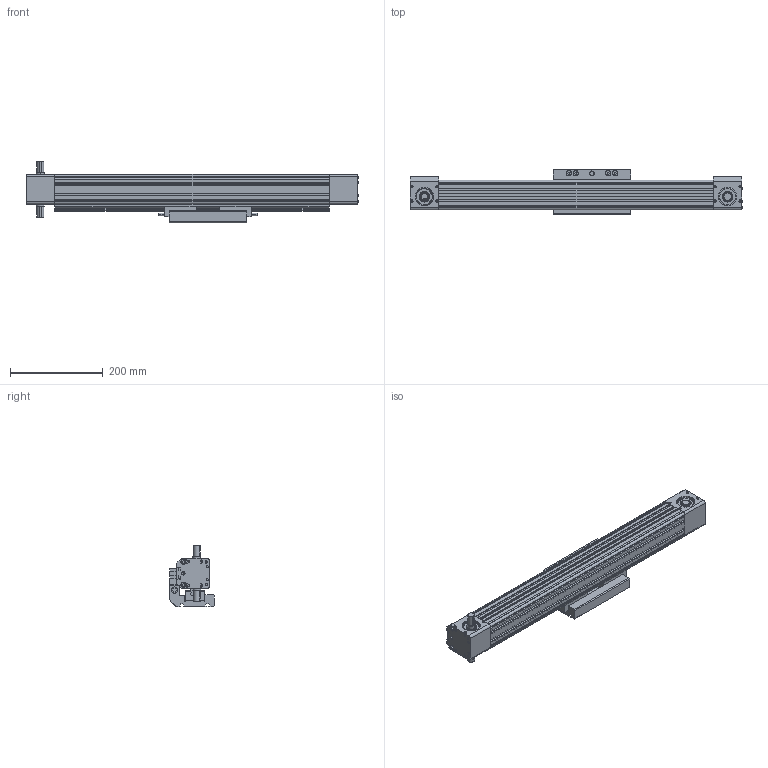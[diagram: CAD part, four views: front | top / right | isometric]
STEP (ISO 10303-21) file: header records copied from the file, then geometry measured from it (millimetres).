
FILE_DESCRIPTION((''),'2;1');
FILE_NAME('TCDH65-S350','2018-02-03T',('lenovo'),(''),'PRO/ENGINEER BY PARAMETRIC TECHNOLOGY CORPORATION, 2010280','PRO/ENGINEER BY PARAMETRIC TECHNOLOGY CORPORATION, 2010280','');
FILE_SCHEMA(('CONFIG_CONTROL_DESIGN'));
Products named in the file (1): TCDH65-S350
Bounding box: 716 x 96.5 x 132.5 mm (x, y, z)
Surface area: 652325.3 mm2 (no closed solid volume)
Topology: 0 solids, 42 shells, 2209 faces, 5866 edges, 3846 vertices
Faces by surface type: plane 1117, cylinder 810, cone 230, torus 52
Entity records: 69812 total; most frequent: CARTESIAN_POINT 13032, DIRECTION 12221, ORIENTED_EDGE 11638, EDGE_CURVE 5866, AXIS2_PLACEMENT_3D 4343, VERTEX_POINT 3846, VECTOR 3535, LINE 3535
